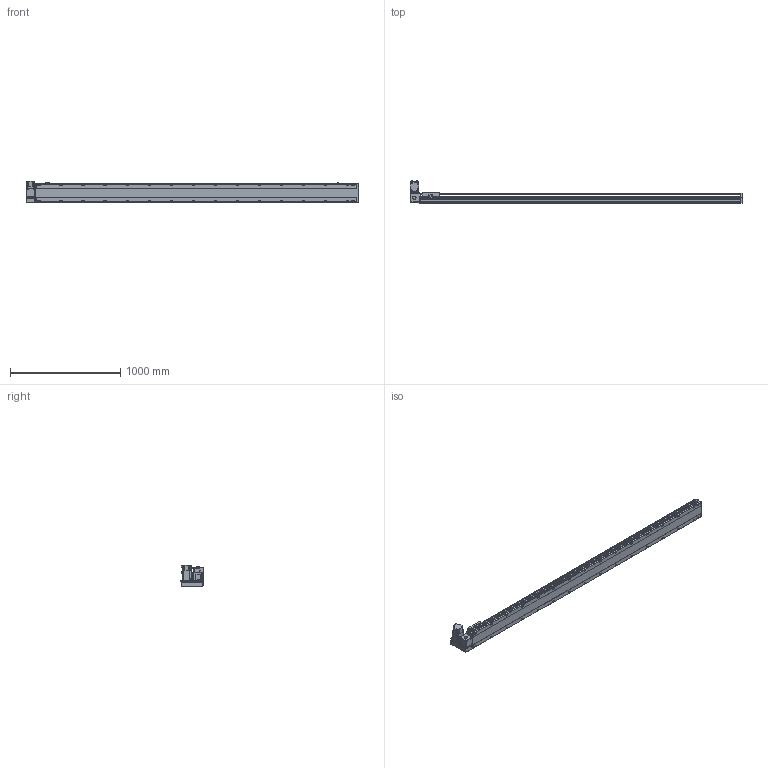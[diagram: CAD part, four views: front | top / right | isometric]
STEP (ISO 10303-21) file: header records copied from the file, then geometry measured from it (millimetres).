
FILE_DESCRIPTION( ( 'STEP AP214' ), '1' );
FILE_NAME( 'x:/temp/worker_4/temp/exporttempdir_2248_418_xBRU0/format_0/PBS170-P40-S2650-LU-T75-C1-N(0).stp', '2022-06-07T08:17:36', ( 'License CC BY-ND 4.0' ), ( 'CADENAS' ), ' ', 'PARTsolutions', ' ' );
FILE_SCHEMA( ( 'AUTOMOTIVE_DESIGN { 1 0 10303 214 1 1 1 1 }' ) );
Length unit declared in the file: millimetre
Products named in the file (7): PBS170-P40-S2650-LU-T75-C1-N(0); _PBS170-S2650()_body; _PBS170T-LU_motors; _T75-p1; _PBS170_sliser; _PBS170_plant; _PBS170_sensor
Assembly tree (8 placements, depth 2):
  PBS170-P40-S2650-LU-T75-C1-N(0)
    _PBS170-S2650()_body
    _PBS170T-LU_motors
    _T75-p1
    _PBS170_sliser
    _PBS170_plant
    _PBS170_sensor  x3
Bounding box: 3013 x 206 x 197.3 mm (x, y, z)
Volume: 22744427.1 mm3; surface area: 2859692.9 mm2
Topology: 8 solids, 8 shells, 1210 faces, 3195 edges, 2082 vertices
Faces by surface type: plane 735, cylinder 403, cone 62, sphere 8, torus 2
Full cylindrical faces by diameter (mm): 3.242 x4, 4 x2, 4.4 x4, 4.5 x6, 4.917 x4, 6 x9, 6.647 x40, 7 x2, 7.5 x4, 8 x8, 8.5 x32, 10 x4, 10.5 x32, 11 x2, 30 x2, 40 x1, 70 x1
Entity records: 44876 total; most frequent: CARTESIAN_POINT 7565, DIRECTION 5860, ORIENTED_EDGE 5508, EDGE_CURVE 2754, AXIS2_PLACEMENT_3D 2077, VERTEX_POINT 1922, LINE 1706, VECTOR 1706
